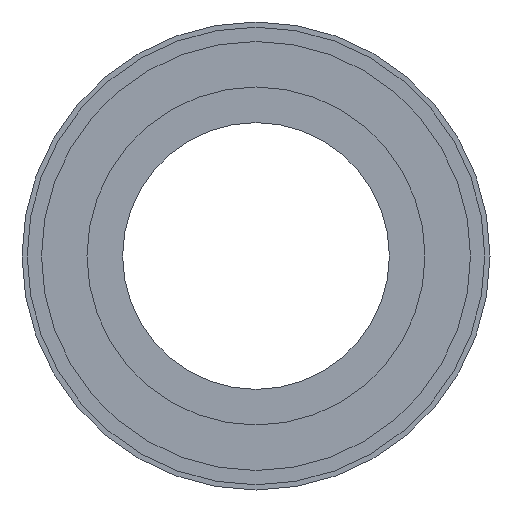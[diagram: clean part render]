
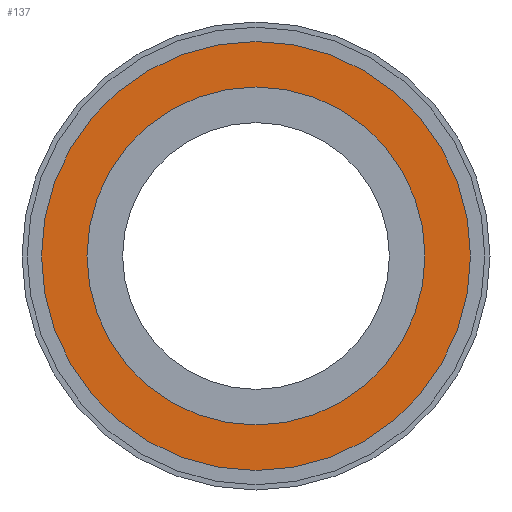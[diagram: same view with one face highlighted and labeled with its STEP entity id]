
A CAD part, front view. The second image highlights one B-rep face of the part: STEP entity #137.
In plain terms, the highlighted planar face has unit normal (0, -1, 0).
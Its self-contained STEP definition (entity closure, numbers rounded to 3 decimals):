
#44 = DIRECTION ( 'NONE',  ( 0., 0., -1. ) ) ;
#64 = FACE_BOUND ( 'NONE', #1204, .T. ) ;
#95 = DIRECTION ( 'NONE',  ( 0., 0., -1. ) ) ;
#110 = VERTEX_POINT ( 'NONE', #181 ) ;
#112 = AXIS2_PLACEMENT_3D ( 'NONE', #1388, #393, #1040 ) ;
#129 = AXIS2_PLACEMENT_3D ( 'NONE', #1211, #208, #1203 ) ;
#137 = ADVANCED_FACE ( 'NONE', ( #1260, #64 ), #262, .T. ) ;
#151 = CIRCLE ( 'NONE', #1402, 54.3 ) ;
#156 = EDGE_LOOP ( 'NONE', ( #747, #810 ) ) ;
#181 = CARTESIAN_POINT ( 'NONE',  ( 0., 38., 54.3 ) ) ;
#208 = DIRECTION ( 'NONE',  ( 0., -1., 0. ) ) ;
#262 = PLANE ( 'NONE',  #112 ) ;
#293 = VERTEX_POINT ( 'NONE', #1232 ) ;
#393 = DIRECTION ( 'NONE',  ( 0., -1., 0. ) ) ;
#427 = DIRECTION ( 'NONE',  ( 0., -1., 0. ) ) ;
#428 = AXIS2_PLACEMENT_3D ( 'NONE', #1077, #427, #95 ) ;
#543 = DIRECTION ( 'NONE',  ( 0., 0., -1. ) ) ;
#573 = AXIS2_PLACEMENT_3D ( 'NONE', #955, #626, #543 ) ;
#626 = DIRECTION ( 'NONE',  ( 0., -1., 0. ) ) ;
#656 = EDGE_CURVE ( 'NONE', #293, #110, #151, .T. ) ;
#747 = ORIENTED_EDGE ( 'NONE', *, *, #791, .T. ) ;
#791 = EDGE_CURVE ( 'NONE', #1199, #1035, #1187, .T. ) ;
#793 = CARTESIAN_POINT ( 'NONE',  ( 0., 38., 0. ) ) ;
#810 = ORIENTED_EDGE ( 'NONE', *, *, #1226, .T. ) ;
#822 = CARTESIAN_POINT ( 'NONE',  ( 0., 38., 82.5 ) ) ;
#935 = ORIENTED_EDGE ( 'NONE', *, *, #656, .F. ) ;
#948 = CIRCLE ( 'NONE', #129, 54.3 ) ;
#955 = CARTESIAN_POINT ( 'NONE',  ( 0., 38., 0. ) ) ;
#976 = EDGE_CURVE ( 'NONE', #110, #293, #948, .T. ) ;
#991 = ORIENTED_EDGE ( 'NONE', *, *, #976, .F. ) ;
#1035 = VERTEX_POINT ( 'NONE', #822 ) ;
#1040 = DIRECTION ( 'NONE',  ( 0., 0., -1. ) ) ;
#1055 = CIRCLE ( 'NONE', #573, 82.5 ) ;
#1077 = CARTESIAN_POINT ( 'NONE',  ( 0., 38., 0. ) ) ;
#1187 = CIRCLE ( 'NONE', #428, 82.5 ) ;
#1199 = VERTEX_POINT ( 'NONE', #1431 ) ;
#1203 = DIRECTION ( 'NONE',  ( 0., 0., -1. ) ) ;
#1204 = EDGE_LOOP ( 'NONE', ( #935, #991 ) ) ;
#1211 = CARTESIAN_POINT ( 'NONE',  ( 0., 38., 0. ) ) ;
#1226 = EDGE_CURVE ( 'NONE', #1035, #1199, #1055, .T. ) ;
#1232 = CARTESIAN_POINT ( 'NONE',  ( 0., 38., -54.3 ) ) ;
#1260 = FACE_OUTER_BOUND ( 'NONE', #156, .T. ) ;
#1270 = DIRECTION ( 'NONE',  ( 0., -1., 0. ) ) ;
#1388 = CARTESIAN_POINT ( 'NONE',  ( 0., 38., -82.5 ) ) ;
#1402 = AXIS2_PLACEMENT_3D ( 'NONE', #793, #1270, #44 ) ;
#1431 = CARTESIAN_POINT ( 'NONE',  ( 0., 38., -82.5 ) ) ;
